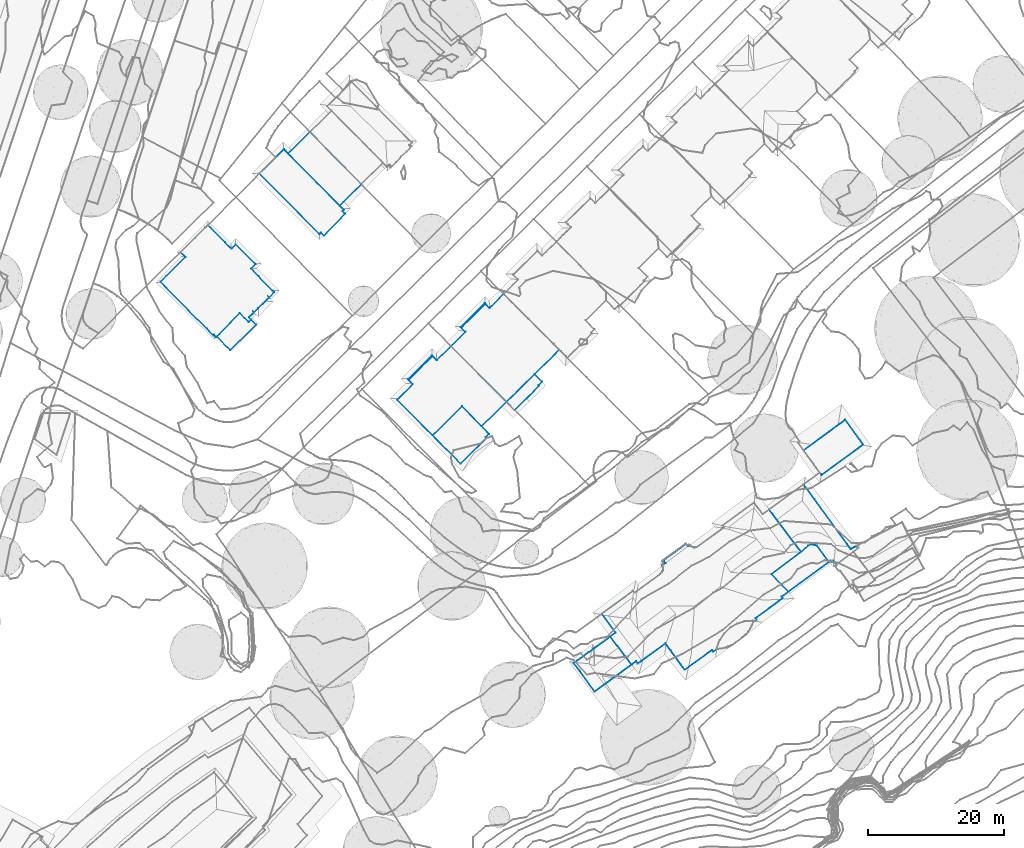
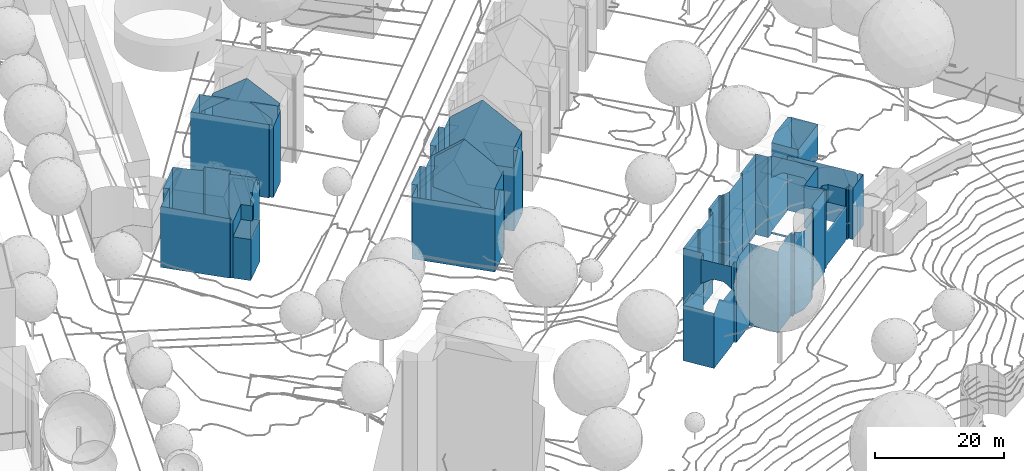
# Not in any storey, part 21 of 494: 6 walls.
"""IFC2X3 model written with IfcOpenShell, lengths in metres."""

from ifc_helpers import new_model, si_unit, frame, origin_with_axes, place, context, subcontext, project, faceted_brep, element, save


model = new_model("IFC2X3")

# Units and contexts
model_context = context("Model", 3, precision=1e-05, world=origin_with_axes())
body_context = subcontext(model_context, "Body", "Model", "MODEL_VIEW")
ifc_project = project(units=[si_unit("AREAUNIT", "SQUARE_METRE"), si_unit("LENGTHUNIT", "METRE")], contexts=[model_context])

# Walls
wall_1_placement = place(None, frame((173.5807320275, 98.186316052, 528.0961), z_axis=(0.0, 0.0, 1.0), x_axis=(1.0, 0.0, 0.0)))
element("IfcWall", 1, at=wall_1_placement, Name="Wall 0", context=body_context, shape_type="Brep", body=[
    faceted_brep([(1.1739999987, 0.8575000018, 7.6082), (2.6099999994, 1.9063000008, 0.0), (1.0150000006, 0.7412, 0.0), (3.1510000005, 2.3018000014, 2.9247), (3.0130000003, 2.2001999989, 7.5642), (4.1730000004, 3.0489000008, 7.5362), (0.0, 0.0, 0.0), (0.0, 0.0, 6.6523), (2.5949999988, -3.5537, -0.0001), (1.2459999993, -1.7060000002, 6.6293), (2.5920000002, -3.5507000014, 6.6043), (2.6530000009, -3.6347000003, 6.5363), (2.6530000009, -3.6347000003, -0.0001), (8.8049999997, 0.8584000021, -0.0001), (8.693, 0.7763999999, 6.6173), (6.7740000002, -0.625, 6.5913), (5.748999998, -1.373999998, -0.0001), (4.8889999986, 3.5703000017, 0.0), (6.1530000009, 4.4932000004, 0.0), (6.1530000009, 4.4932000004, 6.6003), (8.1009999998, 1.8233000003, 6.5443), (5.0500000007, 3.688500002, 7.5162), (8.8049999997, 0.8584000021, 6.5233)], [[[0, 1, 2]], [[1, 0, 3]], [[4, 5, 3]], [[6, 7, 0]], [[2, 6, 0]], [[8, 9, 6]], [[8, 10, 9]], [[8, 11, 10]], [[11, 8, 12]], [[13, 14, 15]], [[16, 13, 15]], [[15, 11, 16]], [[16, 11, 12]], [[1, 5, 17]], [[18, 19, 20]], [[21, 19, 17]], [[4, 3, 0]], [[5, 1, 3]], [[7, 6, 9]], [[17, 5, 21]], [[13, 22, 14]], [[20, 13, 18]], [[22, 13, 20]], [[19, 18, 17]]]),
])
wall_2_placement = place(None, frame((160.7467320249, 68.8533160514, 524.6524), z_axis=(0.0, 0.0, 1.0), x_axis=(1.0, 0.0, 0.0)))
element("IfcWall", 2, at=wall_2_placement, Name="Wall 1", context=body_context, shape_type="Brep", body=[
    faceted_brep([(9.7750000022, 7.5351999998, 15.4145), (9.7750000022, 7.5351999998, 10.225), (9.6160000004, 7.7530000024, 15.3945), (4.3800000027, 2.1933999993, -0.068), (4.3800000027, 2.1933999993, 14.7285), (2.1630000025, 0.5274000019, -0.068), (4.694000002, 2.6006000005, 14.8385), (4.694000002, 2.6006000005, -0.068), (5.2080000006, 3.4942000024, 15.1685), (4.9700000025, 3.0362000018, 14.9875), (5.2080000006, 3.4942000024, -0.068), (4.9700000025, 3.0362000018, -0.068), (5.4050000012, 3.9717000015, -0.068), (5.9300000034, 4.3544999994, 15.3735), (5.9300000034, 4.3544999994, -0.068), (5.7530000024, 4.5976999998, -0.068), (-7.5319999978, 0.8632999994, 7.7602), (-7.4729999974, 0.7959000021, -0.068), (-7.4729999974, 0.7959000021, 15.4845), (-7.5319999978, 0.8632999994, -0.068), (-6.0219999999, -1.1981999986, -0.068), (-5.9399999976, -1.3104999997, 15.3805), (-6.7879999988, -0.1464999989, 3.9136), (-4.6849999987, -3.0381000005, 15.2955), (-4.6849999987, -3.0381000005, 11.4069), (-4.6849999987, -3.0381000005, 7.5192), (-4.6849999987, -3.0381000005, -0.068), (-6.7759999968, -0.1631000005, 15.4375), (-0.6710000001, -0.1053999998, 7.8182), (-0.4979999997, -0.3418000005, 15.4665), (-0.6710000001, -0.1053999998, 15.7045), (-0.6710000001, -0.1053999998, -0.068), (-0.4979999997, -0.3418000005, -0.068), (0.0340000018, 0.0234999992, -0.068), (0.0340000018, 0.0234999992, 15.4435), (0.5250000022, 0.067400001, -0.068), (0.5250000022, 0.067400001, 15.2315), (1.0109999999, 0.1504000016, -0.068), (1.0109999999, 0.1504000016, 15.0475), (1.4630000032, 0.2675999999, 14.9025), (1.4650000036, 0.2675999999, -0.068), (1.4870000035, 0.2754000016, -0.068), (1.4870000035, 0.2754000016, 11.1539), (1.7210000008, 0.3555000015, 3.6096), (1.7210000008, 0.3555000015, 11.0919), (1.5950000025, 0.3125, 3.9526), (1.8370000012, 0.3955000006, 3.5786), (1.9539999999, 0.4356000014, 14.7715), (1.8370000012, 0.3955000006, 14.8015), (1.9539999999, 0.4356000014, -0.068), (1.6480000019, 0.3300999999, 14.8525), (2.1630000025, 0.5274000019, 14.7285), (0.9130000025, 18.2558999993, -0.068), (0.9130000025, 18.2558999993, 15.1985), (5.5450000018, 21.6367000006, -0.068), (5.5450000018, 21.6367000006, 15.2335), (5.5450000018, 21.6367000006, 3.7576), (8.1400000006, 11.0918000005, 14.6826), (10.5880000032, 8.4688000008, 14.6826), (8.1400000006, 11.0918000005, 6.6703), (8.1400000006, 11.0918000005, 0.1969), (10.5880000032, 8.4688000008, 0.1969), (8.1400000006, 11.0918000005, -0.068), (12.4710000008, 14.3535000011, 10.016), (12.4710000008, 14.3535000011, 14.6826), (12.4710000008, 14.3535000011, 6.6703), (12.4710000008, 14.3535000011, 0.1969), (12.4710000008, 14.3535000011, -0.068), (-16.9019999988, 5.2382999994, -0.068), (-16.9019999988, 5.2382999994, 7.5053), (-12.2789999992, 8.6132999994, -0.068), (-14.5899999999, 6.9268000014, 15.1365), (-12.2789999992, 8.6132999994, 15.1555), (-11.8499999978, -1.7705000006, 15.1135), (-11.8499999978, -1.7705000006, 11.3179), (-11.6019999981, -2.1092999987, 7.5203), (-11.8499999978, -1.7705000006, 7.5223), (-11.6019999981, -2.1094000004, -0.068), (-11.8499999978, -1.7705000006, 3.7276), (-11.8499999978, -1.7705000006, -0.068), (-2.9339999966, 15.0850000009, 15.0645), (-2.9339999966, 15.0850000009, -0.068), (-3.0629999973, 15.0371000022, -0.068), (-3.1989999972, 15.0127000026, -0.068), (-3.1989999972, 15.0127000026, 15.0195), (-3.0629999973, 15.0372000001, 15.0475), (-3.3369999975, 15.0117000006, 14.9835), (-3.3369999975, 15.0117000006, -0.068), (-3.4719999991, 15.0342000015, -0.068), (-3.4719999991, 15.0342000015, 14.9396), (-3.6639999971, 15.1104000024, -0.068), (-3.6639999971, 15.1104000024, 14.8616), (-3.8299999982, 15.2324000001, -0.068), (-3.8299999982, 15.2324000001, 14.7736), (-3.8699999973, 15.2030999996, -0.068), (-3.8699999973, 15.2030999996, 14.7736), (-3.9909999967, 15.3682000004, 14.6826), (-3.9909999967, 15.3682000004, -0.068), (-4.2079999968, 15.2050999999, 14.6826), (-4.2079999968, 15.2050999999, -0.068), (-7.9919999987, 12.3535000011, 14.6826), (-7.5029999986, 12.7217000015, -0.068), (-7.9919999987, 12.3535000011, -0.068), (-7.5029999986, 12.7217000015, 14.6826), (-7.9149999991, 12.2481000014, -0.068), (-7.9549999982, 12.2197999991, -0.068), (-7.9549999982, 12.2197999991, 14.7406), (-7.9149999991, 12.2481000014, 14.7406), (-7.8889999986, 12.0234999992, 14.8276), (-7.8889999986, 12.0234999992, -0.068), (-7.875, 11.8164000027, -0.068), (-7.875, 11.8164000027, 14.9046), (-7.8959999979, 11.6797000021, -0.068), (-7.8959999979, 11.6797000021, 14.9476), (-7.9389999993, 11.5488000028, -0.068), (-7.9389999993, 11.5489000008, 14.9825), (-8.0029999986, 11.4268000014, 15.0085), (-8.0029999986, 11.4268000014, -0.068), (-8.0879999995, 11.3175000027, -0.068), (-8.0878999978, 11.317400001, 15.0245), (-8.0589999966, 11.2774000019, 7.4893), (-8.0589999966, 11.2774000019, -0.068), (-2.9029999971, 15.0430000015, 15.0875), (-2.9029999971, 15.0430000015, -0.068), (-4.4869999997, 15.5419999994, 14.6826), (-4.2929999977, 15.2754000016, 14.6826), (-4.4869999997, 15.5419999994, -0.068), (-7.8029999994, 13.1220999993, 14.6826), (-4.2719999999, 15.2910000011, 14.6826), (-4.2719999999, 15.2910000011, -0.068), (-4.2929999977, 15.2754000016, -0.068), (-12.5299999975, -2.2675999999, 14.6826), (-13.3329999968, -1.2010999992, 11.4629), (-12.5309999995, -2.2675999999, 10.464), (-14.443, 0.2725000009, 11.4629), (-15.6519999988, 1.8780000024, 14.6826), (-15.6519999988, 1.8780000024, 10.061), (16.9630000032, 12.8438000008, 0.3329), (16.813000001, 13.0498000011, 5.5834), (16.813000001, 13.0498000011, 2.8137), (16.9630000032, 12.8438000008, 10.255), (16.813000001, 13.0498000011, 0.3329), (20.9470000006, 14.9453000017, 10.016), (17.6490000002, 12.4600000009, 10.016), (20.9470000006, 14.9453000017, 0.3329), (20.7070000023, 15.2646999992, 10.016), (20.7070000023, 15.2646999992, 0.3329), (7.762000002, 20.6064999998, 14.6826), (8.9000000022, 19.0967000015, 11.9998), (7.762000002, 20.6064999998, 10.539), (10.9910000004, 16.3252000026, 11.9998), (7.762000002, 20.6064999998, 0.3329), (8.9000000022, 19.0967000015, 0.3329), (7.762000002, 20.6064999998, -0.068), (10.9910000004, 16.3252000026, 0.3329), (12.4710000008, 14.3535000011, 0.3329), (14.825000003, 15.2588, 0.3329), (16.5910000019, 12.8867000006, 0.3329), (14.825000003, 15.2588, 0.1969), (13.8940000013, 15.4824000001, 0.3329), (13.8940000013, 15.4824000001, 0.1969), (13.4810000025, 15.2655999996, 0.3329), (13.4810000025, 15.2655999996, 0.1969), (16.5920000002, 12.8867000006, 10.016), (14.825000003, 15.2588, 10.016), (16.5910000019, 12.8867000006, 6.6703), (13.8940000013, 15.4824000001, 10.016), (13.4810000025, 15.2655999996, 10.016), (13.8940000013, 15.4824000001, 6.6703), (13.4810000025, 15.2655999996, 6.6703), (14.825000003, 15.2588, 6.6703), (6.8060000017, 19.9081999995, 15.2605), (6.8060000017, 19.9081999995, -0.068), (12.8330000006, 24.3115000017, 10.609), (12.8330000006, 24.3115000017, 0.3329), (5.5620000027, 21.6132999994, 15.2455), (9.5900000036, 7.4004000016, 15.5495), (9.7750000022, 7.5351999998, -0.068), (6.7770000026, 5.3456999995, 15.6015), (5.7530000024, 4.5976999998, 15.6175), (-1.8509999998, -0.9677000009, 15.7215), (-1.8509999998, -0.9677000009, -0.068), (-4.1559999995, -2.6512999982, 15.7465), (-4.1559999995, -2.6512999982, -0.068), (0.9550000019, 18.1983000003, 15.2275), (1.1150000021, 17.9785000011, 15.2265), (1.1150000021, 17.9785000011, -0.068), (-12.0789999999, 8.3399000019, 15.2075), (-12.0789999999, 8.3399000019, -0.068), (-11.7219999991, 8.6006000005, 15.0175), (-8.0589999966, 11.2774000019, 15.0465), (-12.2149999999, 8.5254000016, 15.2055), (-14.867999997, 2.4521999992, 15.1795), (-16.9019999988, 5.2382999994, 15.1165), (-14.867999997, 2.4521999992, -0.068), (-16.7889999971, 5.0830000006, 15.2045), (-11.0119999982, -1.6787, 15.4845), (-11.6019999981, -2.1094000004, 15.1105), (-10.9069999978, -1.6024999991, 15.6605), (-7.5319999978, 0.8632999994, 15.5895), (-10.9069999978, -1.6024999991, -0.068), (-11.0119999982, -1.6787, -0.068), (0.9360000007, 17.8476999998, -0.068), (0.9360000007, 17.8476999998, 15.1185), (-7.8029999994, 13.1220999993, -0.068), (-4.5849999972, 15.4717000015, -0.068), (-4.5849999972, 15.4717000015, 14.6826), (-17.9599999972, -6.2333999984, -0.22), (-17.9599999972, -6.2333999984, 10.231), (-20.1969999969, -3.182599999, -0.22), (-20.1969999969, -3.182599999, 10.271), (-21.0489999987, -2.0194999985, 10.226), (-21.0489999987, -2.0194999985, -0.22), (-18.8389999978, -0.4569999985, -0.22), (-20.925999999, -1.932599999, 10.324), (-18.8389999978, -0.4569999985, 10.382), (-15.1559999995, -4.1854999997, 10.5), (-16.2929999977, -5.0155999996, 11.5049), (-17.2149999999, -5.6893999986, -0.22), (-17.2149999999, -5.6893999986, 10.9909), (-16.5599999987, -5.2108999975, 11.5199), (-16.4949999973, -5.1631000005, -0.22), (-12.5299999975, -2.2675999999, -0.068), (-15.1559999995, -4.1854999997, -0.22), (-12.5309999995, -2.2675999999, -0.22), (-15.6519999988, 1.8780000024, -0.068), (-15.6519999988, 1.8780000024, -0.22), (16.813000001, 13.0498000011, 10.258), (10.5880000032, 8.4688000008, 6.6703), (9.6160000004, 7.7530000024, -0.068), (16.5910000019, 12.8867000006, 0.1969), (10.5880000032, 8.4688000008, -0.068), (17.2290000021, 13.0381000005, 10.5479), (17.2290000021, 13.0381000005, 0.3329), (17.6490000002, 12.4600000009, 0.3329), (17.2780000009, 12.9706999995, 0.3329), (17.2780000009, 12.9706999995, 10.5469), (20.4240000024, 15.1162, 10.271), (19.7880000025, 14.7842000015, 10.496), (20.2520000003, 15.0263999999, 10.423), (19.7880000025, 14.7842000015, 0.3329), (20.2410000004, 15.0205000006, 0.3329), (-17.981999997, 0.1709000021, 10.034), (-18.2019999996, 0.009800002, -0.22), (-18.432, -0.1581999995, -0.22), (-17.981999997, 0.1709000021, -0.22), (-18.432, -0.1581999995, 10.387), (-18.2019999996, 0.009800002, 10.274), (12.9020000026, 24.2178000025, 10.699), (14.4370000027, 22.1143000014, 10.7349), (14.4370000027, 22.1143000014, 0.3329), (12.9020000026, 24.2178000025, 0.3329), (19.2700000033, 15.4932000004, 10.8329), (19.2700000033, 15.4932000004, 0.3329), (19.5520000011, 15.1084000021, 0.3329), (19.5520000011, 15.1084000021, 10.8339), (5.4050000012, 3.9717000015, 15.3815)], [[[0, 1, 2]], [[3, 4, 5]], [[6, 4, 7]], [[8, 9, 10]], [[9, 11, 10]], [[8, 10, 12]], [[13, 14, 15]], [[16, 17, 18]], [[16, 19, 17]], [[20, 21, 22]], [[23, 21, 24]], [[25, 20, 26]], [[27, 17, 22]], [[20, 22, 17]], [[28, 29, 30]], [[28, 31, 29]], [[29, 31, 32]], [[32, 33, 34]], [[29, 32, 34]], [[35, 36, 33]], [[35, 37, 38]], [[38, 37, 39]], [[39, 37, 40]], [[41, 42, 39]], [[41, 39, 40]], [[43, 44, 45]], [[46, 47, 48]], [[48, 44, 46]], [[47, 46, 49]], [[49, 46, 43]], [[50, 45, 44]], [[42, 50, 39]], [[43, 45, 41]], [[43, 41, 49]], [[51, 47, 5]], [[5, 47, 49]], [[52, 53, 54]], [[55, 56, 53]], [[56, 54, 53]], [[57, 58, 59]], [[60, 61, 62]], [[63, 64, 57]], [[63, 59, 65]], [[59, 63, 57]], [[66, 60, 67]], [[68, 69, 70]], [[71, 72, 69]], [[70, 69, 72]], [[73, 74, 75]], [[74, 76, 77]], [[78, 77, 76]], [[78, 79, 77]], [[80, 81, 82]], [[82, 83, 84]], [[85, 82, 84]], [[86, 83, 87]], [[88, 89, 87]], [[90, 91, 89]], [[90, 89, 88]], [[91, 92, 93]], [[91, 90, 92]], [[94, 95, 92]], [[95, 93, 92]], [[94, 96, 95]], [[96, 94, 97]], [[98, 96, 99]], [[96, 97, 99]], [[100, 101, 102]], [[101, 100, 103]], [[104, 100, 102]], [[105, 106, 104]], [[104, 106, 107]], [[105, 108, 106]], [[108, 105, 109]], [[110, 111, 108]], [[110, 108, 109]], [[112, 113, 110]], [[114, 115, 113]], [[113, 112, 114]], [[115, 114, 116]], [[116, 114, 117]], [[116, 118, 119]], [[116, 117, 118]], [[119, 118, 120]], [[120, 118, 121]], [[81, 80, 122]], [[123, 81, 122]], [[124, 125, 126]], [[103, 127, 101]], [[128, 98, 129]], [[125, 128, 130]], [[131, 132, 133]], [[132, 131, 134]], [[134, 135, 136]], [[135, 134, 131]], [[137, 138, 139]], [[140, 138, 137]], [[137, 139, 141]], [[142, 143, 144]], [[145, 142, 146]], [[147, 148, 149]], [[148, 147, 150]], [[150, 64, 63]], [[64, 150, 147]], [[151, 152, 153]], [[153, 152, 154]], [[154, 155, 66]], [[66, 67, 154]], [[154, 67, 153]], [[156, 157, 158]], [[159, 156, 160]], [[161, 159, 162]], [[155, 161, 66]], [[163, 164, 165]], [[166, 167, 168]], [[167, 63, 169]], [[164, 166, 170]], [[171, 147, 149]], [[149, 172, 171]], [[172, 149, 151]], [[173, 174, 151]], [[151, 153, 172]], [[173, 151, 149]], [[54, 56, 172]], [[175, 171, 55]], [[171, 172, 56]], [[171, 56, 55]], [[1, 0, 176]], [[15, 177, 1]], [[178, 1, 176]], [[178, 179, 15]], [[178, 15, 1]], [[180, 28, 30]], [[181, 28, 25]], [[31, 28, 181]], [[24, 180, 182]], [[24, 182, 23]], [[26, 183, 25]], [[183, 181, 25]], [[180, 24, 25]], [[25, 28, 180]], [[184, 53, 185]], [[52, 186, 53]], [[53, 186, 185]], [[187, 120, 188]], [[189, 120, 187]], [[189, 190, 120]], [[188, 120, 121]], [[188, 70, 72]], [[187, 188, 72]], [[191, 187, 72]], [[192, 193, 194]], [[193, 192, 195]], [[68, 194, 69]], [[69, 194, 193]], [[196, 197, 16]], [[198, 196, 16]], [[16, 199, 198]], [[16, 197, 75]], [[16, 75, 19]], [[200, 19, 75]], [[201, 200, 75]], [[75, 77, 201]], [[123, 122, 202]], [[202, 203, 186]], [[202, 122, 203]], [[186, 203, 185]], [[204, 127, 205]], [[124, 126, 206]], [[207, 208, 209]], [[209, 208, 210]], [[209, 211, 212]], [[211, 209, 210]], [[213, 212, 211]], [[211, 214, 215]], [[211, 215, 213]], [[216, 217, 208]], [[74, 133, 76]], [[74, 131, 133]], [[78, 76, 218]], [[133, 207, 76]], [[133, 216, 207]], [[73, 131, 74]], [[219, 217, 220]], [[208, 207, 216]], [[221, 78, 218]], [[218, 76, 207]], [[79, 78, 222]], [[223, 224, 222]], [[222, 78, 223]], [[221, 223, 78]], [[208, 217, 219]], [[225, 224, 226]], [[224, 225, 222]], [[227, 163, 138]], [[228, 58, 2]], [[165, 138, 163]], [[61, 139, 138]], [[61, 138, 165]], [[165, 228, 61]], [[228, 229, 61]], [[141, 139, 157]], [[61, 230, 157]], [[139, 61, 157]], [[231, 61, 229]], [[2, 229, 228]], [[140, 137, 232]], [[137, 233, 232]], [[234, 143, 235]], [[235, 143, 236]], [[236, 232, 233]], [[236, 233, 235]], [[237, 145, 238]], [[238, 239, 237]], [[145, 240, 238]], [[241, 240, 145]], [[241, 145, 146]], [[242, 243, 244]], [[242, 245, 243]], [[226, 245, 225]], [[194, 225, 136]], [[225, 245, 242]], [[244, 213, 215]], [[136, 135, 192]], [[246, 247, 242]], [[242, 136, 225]], [[246, 242, 215]], [[192, 194, 136]], [[215, 242, 244]], [[173, 248, 249]], [[249, 250, 173]], [[173, 251, 174]], [[250, 251, 173]], [[249, 252, 253]], [[238, 253, 252]], [[249, 253, 250]], [[240, 254, 238]], [[238, 254, 253]], [[252, 255, 238]], [[2, 1, 177]], [[229, 2, 177]], [[51, 5, 4]], [[4, 3, 7]], [[6, 7, 9]], [[11, 9, 7]], [[256, 8, 12]], [[14, 13, 12]], [[256, 12, 13]], [[15, 179, 13]], [[199, 16, 18]], [[24, 21, 20]], [[24, 20, 25]], [[27, 22, 21]], [[18, 17, 27]], [[34, 33, 36]], [[36, 35, 38]], [[46, 44, 43]], [[50, 44, 48]], [[45, 50, 42]], [[42, 41, 45]], [[58, 228, 59]], [[61, 231, 62]], [[60, 62, 67]], [[193, 71, 69]], [[75, 74, 77]], [[73, 75, 197]], [[85, 80, 82]], [[84, 83, 86]], [[86, 87, 89]], [[107, 100, 104]], [[111, 110, 113]], [[190, 119, 120]], [[125, 130, 126]], [[127, 204, 101]], [[98, 99, 129]], [[128, 129, 130]], [[227, 138, 140]], [[143, 234, 144]], [[142, 144, 146]], [[157, 230, 158]], [[156, 158, 160]], [[159, 160, 162]], [[161, 162, 66]], [[164, 170, 165]], [[167, 169, 168]], [[63, 65, 169]], [[166, 168, 170]], [[127, 206, 205]], [[126, 205, 206]]]),
])
wall_3_placement = place(None, frame((78.7667320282, 123.0301160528, 529.3211), z_axis=(0.0, 0.0, 1.0), x_axis=(1.0, 0.0, 0.0)))
element("IfcWall", 3, at=wall_3_placement, Name="Wall 0", context=body_context, shape_type="Brep", body=[
    faceted_brep([(14.1019999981, -6.3213, 7.7942), (10.2869999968, -10.1006000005, 7.7942), (14.1019999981, -6.3213, -0.0001), (8.2649999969, -8.126000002, 7.7942), (10.2869999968, -10.1006000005, -0.0001), (15.7159999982, -2.0342000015, 12.0338), (16.0089999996, -2.3194000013, 12.0338), (16.0089999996, -2.3194000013, 11.3049), (13.7709999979, -4.5351999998, 12.0338), (13.5189999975, -4.2890999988, 12.0338), (13.7709999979, -4.5351999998, 11.4069), (0.0, 0.0, 0.0), (3.7009999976, 3.6631000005, 11.4989), (3.7009999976, 3.6631000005, 0.0), (0.0, 0.0, 11.3499), (0.0, 0.0, 7.0373), (8.2419999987, -8.1493999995, 10.6389), (7.930999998, -7.8350000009, 11.4119), (8.2419999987, -8.1493999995, -0.0001), (7.930999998, -7.8350000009, -0.0001), (7.8399999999, -7.9257999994, -0.0001), (7.8399999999, -7.9257999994, 11.2049), (11.6569999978, -4.6464999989, 7.7942), (11.6569999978, -4.6464999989, 10.6389), (8.2649999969, -8.126000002, -0.0001), (13.3609999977, -5.572300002, 10.6389), (12.993999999, -5.9492000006, 10.6389), (13.3609999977, -5.572300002, 7.7942), (12.993999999, -5.9492000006, 7.7942), (6.8609999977, -6.9365000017, 11.2509), (6.8609999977, -6.9365000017, -0.0001), (0.0819999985, -0.0830000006, 11.5359), (13.9399999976, 2.6543000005, 11.8498), (14.0039999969, 2.5907999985, 11.6778), (11.1199999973, 5.5058000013, 11.7208), (14.0039999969, 2.5907999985, 5.8224), (14.0039999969, 2.5907999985, 0.0), (13.9399999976, 2.6543000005, 0.0), (11.1199999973, 5.5058000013, 0.0), (10.4769999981, 4.8680999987, 11.8988), (10.6209999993, 5.0106999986, 11.9048), (10.6209999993, 5.0106999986, 0.0), (10.4769999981, 4.8680999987, 0.0), (11.0399999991, 5.4266999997, 11.9258), (2.981999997, 4.3896000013, 0.0), (2.981999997, 4.3896000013, 11.2519), (6.5949999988, 7.9648000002, 0.0), (6.5949999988, 7.9648000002, 11.3959), (7.0089999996, 8.375, 11.4129), (7.0089999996, 8.375, 0.0), (9.5, 5.8563999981, 0.0), (7.0219999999, 8.3612999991, 0.0), (9.5, 5.8563999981, 11.5559), (10.367999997, 4.9785000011, 11.5978), (7.0219999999, 8.3612999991, 11.4419), (3.0069999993, 4.3641999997, 11.3079), (3.6059999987, 3.7588, 11.2829), (13.3699999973, 1.9628999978, 0.0), (13.3699999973, 1.9628999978, 11.7108), (14.4459999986, 0.8535000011, 11.7918), (16.5169999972, -1.2813000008, -0.0001), (16.5169999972, -1.2813000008, 11.9448), (16.7819999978, -1.5547000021, -0.0001), (16.7819999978, -1.5547000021, 11.2699), (14.4459999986, 0.8535000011, -0.0001), (13.0449999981, -5.2529000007, 11.4368), (13.0449999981, -5.2529000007, -0.0001), (13.3609999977, -5.572300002, -0.0001), (16.7109999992, -1.625, 11.2739), (16.0089999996, -2.3194000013, -0.0001), (15.4229999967, -2.9004000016, 13.0077), (15.1199999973, -3.1992000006, -0.0001), (15.1199999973, -3.1992000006, 13.0157), (16.7109999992, -1.625, -0.0001), (15.4229999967, -2.9004000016, -0.0001), (14.436999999, -3.875, -0.0001), (14.436999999, -3.875, 13.0357), (13.2909999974, -5.009800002, -0.0001), (13.5549999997, -4.7481000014, 11.4159), (13.2909999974, -5.009800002, 11.4288), (13.7709999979, -4.5351999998, -0.0001), (13.5549999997, -4.7481000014, -0.0001)], [[[0, 1, 2]], [[1, 3, 4]], [[5, 6, 7]], [[8, 9, 10]], [[11, 12, 13]], [[14, 12, 15]], [[11, 15, 12]], [[16, 17, 18]], [[17, 19, 18]], [[20, 19, 21]], [[22, 23, 3]], [[3, 18, 24]], [[18, 3, 16]], [[25, 26, 27]], [[26, 23, 28]], [[29, 30, 20]], [[21, 29, 20]], [[15, 29, 31]], [[15, 31, 14]], [[11, 30, 15]], [[15, 30, 29]], [[32, 33, 34]], [[34, 33, 35]], [[35, 36, 37]], [[37, 38, 35]], [[35, 38, 34]], [[39, 40, 41]], [[41, 42, 39]], [[40, 38, 41]], [[34, 38, 40]], [[34, 40, 43]], [[44, 45, 46]], [[46, 45, 47]], [[47, 48, 49]], [[47, 49, 46]], [[50, 51, 52]], [[53, 42, 50]], [[52, 51, 49]], [[48, 54, 52]], [[53, 39, 42]], [[53, 50, 52]], [[52, 49, 48]], [[55, 45, 56]], [[12, 56, 13]], [[13, 56, 45]], [[44, 13, 45]], [[57, 58, 59]], [[60, 59, 61]], [[62, 61, 63]], [[60, 64, 59]], [[62, 60, 61]], [[59, 64, 57]], [[25, 27, 65]], [[65, 27, 66]], [[2, 67, 27]], [[27, 67, 66]], [[0, 2, 27]], [[68, 7, 69]], [[7, 70, 71]], [[70, 7, 6]], [[71, 70, 72]], [[62, 63, 73]], [[63, 68, 73]], [[69, 73, 68]], [[7, 74, 69]], [[7, 71, 74]], [[72, 75, 71]], [[10, 76, 8]], [[77, 78, 79]], [[66, 79, 65]], [[75, 10, 80]], [[10, 75, 76]], [[80, 10, 81]], [[81, 10, 78]], [[81, 78, 77]], [[79, 66, 77]], [[76, 75, 72]], [[1, 4, 2]], [[3, 24, 4]], [[21, 19, 17]], [[35, 33, 57]], [[57, 36, 35]], [[58, 57, 33]], [[23, 16, 3]], [[26, 28, 27]], [[23, 22, 28]]]),
])
wall_4_placement = place(None, frame((93.366732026, 139.0154160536, 529.92), z_axis=(0.0, 0.0, 1.0), x_axis=(1.0, 0.0, 0.0)))
element("IfcWall", 4, at=wall_4_placement, Name="Wall 0", context=body_context, shape_type="Brep", body=[
    faceted_brep([(9.506000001, -9.1621000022, 13.4417), (9.0810000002, -8.7324000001, 0.0), (9.506000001, -9.1621000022, 0.0), (12.6420000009, -5.9756000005, 13.4417), (12.6420000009, -5.9756000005, 0.0), (9.0810000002, -8.7324000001, 13.8067), (8.8610000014, -8.951100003, 3.4527), (8.8610000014, -8.951100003, 0.0), (7.4539999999, 6.1162, 4.2446), (4.25, 2.9423999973, 0.104), (7.4539999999, 6.1162, 8.3852), (7.4539999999, 6.1162, 0.104), (12.4629999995, -5.3828000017, 0.104), (12.4629999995, -5.3828000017, 6.8843), (12.2569999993, -5.5868999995, 0.0), (12.4629999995, -5.3828000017, 0.0), (12.2569999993, -5.5868999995, 13.7727), (3.8320000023, 3.3310999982, 10.698), (3.8489999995, 3.3486999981, 0.104), (3.8320000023, 3.3310999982, 0.104), (0.0, 0.0, 13.9177), (3.5109999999, 3.4775999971, 13.9557), (3.6000000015, 3.5654999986, 13.8767), (3.6000000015, 3.5654999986, 0.0), (3.5109999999, 3.4775999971, 0.0), (0.0, 0.0, 0.0), (8.8610000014, -8.951100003, 13.8097), (8.800999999, -8.8905999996, 13.8607), (8.8610000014, -8.951100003, 10.357), (0.0580000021, -0.0576000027, 0.0), (0.0580000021, -0.0576000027, 13.9677), (15.0190000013, -1.5849000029, 0.104), (15.0190000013, -1.5849000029, 11.2879), (12.2919999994, -4.2861000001, 11.3269), (11.8300000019, -4.7441000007, 11.3319), (11.8300000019, -4.7441000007, 0.104), (11.307, 2.1943999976, 0.104), (7.4539999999, 6.1162, 11.1449), (11.307, 2.1943999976, 15.0576), (7.0130000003, 0.1191999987, 13.9157), (12.2200000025, -5.1377000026, 0.0), (11.8300000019, -4.7441000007, 13.9707), (12.4629999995, -5.3828000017, 13.7707), (9.2470000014, -2.1367000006, 13.9417), (12.2250000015, -5.1416000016, 13.9757), (3.8489999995, 3.3486999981, 10.698), (4.25, 2.9423999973, 11.1039)], [[[0, 1, 2]], [[3, 0, 4]], [[1, 5, 6]], [[6, 7, 1]], [[8, 9, 10]], [[11, 9, 8]], [[12, 13, 14]], [[12, 14, 15]], [[16, 14, 13]], [[17, 18, 19]], [[20, 21, 22]], [[20, 22, 23]], [[20, 24, 25]], [[24, 20, 23]], [[26, 27, 28]], [[6, 28, 29]], [[30, 28, 27]], [[29, 30, 20]], [[29, 20, 25]], [[7, 6, 29]], [[28, 30, 29]], [[31, 32, 33]], [[33, 34, 35]], [[33, 35, 31]], [[36, 11, 8]], [[8, 32, 36]], [[37, 38, 10]], [[32, 31, 36]], [[32, 10, 38]], [[32, 8, 10]], [[22, 17, 23]], [[17, 22, 39]], [[23, 19, 40]], [[19, 23, 17]], [[35, 40, 19]], [[34, 41, 42]], [[41, 34, 43]], [[44, 42, 41]], [[40, 12, 15]], [[40, 35, 12]], [[35, 13, 12]], [[34, 42, 13]], [[35, 34, 13]], [[5, 1, 0]], [[0, 2, 4]], [[16, 3, 14]], [[14, 3, 4]], [[5, 28, 6]], [[26, 28, 5]], [[45, 46, 9]], [[45, 9, 18]], [[37, 9, 46]], [[9, 37, 10]], [[16, 13, 42]], [[45, 18, 17]]]),
])
wall_5_placement = place(None, frame((121.6327320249, 113.5477160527, 529.229), z_axis=(0.0, 0.0, 1.0), x_axis=(1.0, 0.0, 0.0)))
element("IfcWall", 5, at=wall_5_placement, Name="Wall 0", context=body_context, shape_type="Brep", body=[
    faceted_brep([(15.943, -0.5274000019, 11.1639), (12.2860000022, -4.1367999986, 0.11), (15.943, -0.5274000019, 0.0), (8.1550000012, -8.2149000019, 0.11), (8.1550000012, -8.2149000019, 0.0), (1.5050000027, 2.7030999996, 0.581), (5.0610000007, 6.2137999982, 0.581), (1.5050000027, 2.7030999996, 0.0), (0.0, 0.0, 0.0), (0.0, 0.0, 5.9304), (1.2850000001, 1.2773000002, 4.0726), (2.1090000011, 2.0947000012, 0.0), (2.1090000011, 2.0947000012, 11.8529), (2.1090000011, 2.0947000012, 7.4053), (2.1090000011, 2.0947000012, 2.9577), (13.376000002, -5.2413000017, 11.1639), (12.8720000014, -5.7422000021, 0.11), (13.376000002, -5.2413000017, 0.11), (12.8720000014, -5.7422000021, 11.8219), (12.9780000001, -5.8487000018, 5.2335), (12.9780000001, -5.8487000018, 0.11), (12.2860000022, -4.1367999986, 11.1639), (7.745000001, 7.6904000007, 0.0), (7.745000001, 7.6904000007, 11.8359), (11.4760000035, 3.9510999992, 0.0), (11.4760000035, 3.9510999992, 16.0845), (1.9800000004, 2.2245999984, 11.7059), (1.4030000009, 2.8055999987, 11.7039), (1.4030000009, 2.8055999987, 0.581), (5.6550000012, 5.6162, 11.8729), (5.6770000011, 5.6376000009, 11.8419), (5.6550000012, 5.6162, 0.0), (1.5170000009, 2.9199000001, 0.581), (4.943, 6.3330000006, 11.8379), (4.943, 6.3330000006, 0.581), (1.5170000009, 2.9199000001, 11.8609), (5.0610000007, 6.2137999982, 0.0), (4.9690000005, 6.3066000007, 11.8759), (11.1170000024, -7.697300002, 0.11), (9.3650000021, -9.4365999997, 0.11), (12.9780000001, -5.8487000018, 11.8219), (11.1170000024, -7.697300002, 14.2506), (9.3650000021, -9.4365999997, 12.0388), (7.3680000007, -7.4239000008, 12.0318), (3.699000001, -3.7265999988, 0.0), (0.0, 0.0, 11.8609), (3.699000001, -3.7265999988, 16.0845)], [[[0, 1, 2]], [[1, 3, 4]], [[1, 4, 2]], [[5, 6, 7]], [[8, 9, 10]], [[8, 10, 11]], [[12, 13, 10]], [[14, 10, 13]], [[14, 11, 10]], [[15, 16, 17]], [[15, 18, 16]], [[19, 20, 16]], [[21, 17, 1]], [[22, 23, 24]], [[0, 23, 25]], [[0, 2, 24]], [[0, 24, 23]], [[26, 27, 13]], [[13, 12, 26]], [[27, 28, 13]], [[14, 28, 5]], [[28, 14, 13]], [[11, 5, 7]], [[5, 11, 14]], [[29, 30, 31]], [[23, 22, 31]], [[23, 31, 30]], [[32, 28, 33]], [[34, 32, 33]], [[27, 35, 33]], [[27, 33, 28]], [[36, 6, 31]], [[34, 33, 6]], [[33, 37, 29]], [[31, 6, 29]], [[29, 6, 33]], [[20, 19, 38]], [[39, 38, 19]], [[40, 41, 42]], [[19, 42, 39]], [[42, 19, 40]], [[3, 43, 9]], [[42, 43, 3]], [[3, 39, 42]], [[44, 4, 3]], [[45, 43, 46]], [[9, 44, 3]], [[44, 9, 8]], [[9, 43, 45]], [[21, 1, 0]], [[6, 36, 7]], [[9, 45, 10]], [[45, 12, 10]], [[18, 40, 16]], [[16, 40, 19]], [[15, 17, 21]]]),
])
wall_6_placement = place(None, frame((113.678732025, 105.6463160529, 529.229), z_axis=(0.0, 0.0, 1.0), x_axis=(1.0, 0.0, 0.0)))
element("IfcWall", 6, at=wall_6_placement, Name="Wall 0", context=body_context, shape_type="Brep", body=[
    faceted_brep([(16.1090000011, -0.313500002, 11.1639), (12.4560000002, -3.9199000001, 11.1639), (16.1090000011, -0.313500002, 0.0), (5.8420000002, 5.8037, 0.0), (7.9539999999, 7.9013999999, 8.8922), (7.9539999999, 7.9013999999, 5.8835), (5.8420000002, 5.8037, 11.8679), (7.9539999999, 7.9013999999, 11.8609), (5.8420000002, 5.8037, 7.2403), (7.9539999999, 7.9013999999, 0.0), (1.6720000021, 2.9160000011, 0.265), (5.2250000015, 6.4248000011, 0.0), (1.6720000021, 2.9160000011, 0.0), (13.064000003, -5.5507999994, 11.7049), (13.1690000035, -5.6563000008, -0.047), (13.064000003, -5.5507999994, -0.047), (12.4560000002, -3.9199000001, 0.0), (13.5700000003, -5.0478999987, -0.047), (9.5590000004, -0.9844000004, -0.047), (9.5590000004, -0.9844000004, 0.0), (13.5700000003, -5.0478999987, 11.1639), (5.2260000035, -5.2626999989, 0.0), (5.2250000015, -5.2637000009, -0.047), (5.0930000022, 6.4853000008, 11.8709), (5.1290000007, 6.5214999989, 11.8259), (1.7100000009, 3.120099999, 11.8879), (1.5890000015, 2.998999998, 11.7429), (5.1290000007, 6.5214999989, 0.265), (5.0930000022, 6.4853000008, 0.265), (1.7100000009, 3.120099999, 0.265), (1.5890000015, 2.998999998, 0.265), (11.6530000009, 4.1748000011, 16.0845), (11.6530000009, 4.1748000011, 0.0), (2.2990000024, 2.2841999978, 0.0), (0.0, 0.0, 0.0), (0.0, 0.0, 11.6839), (0.1780000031, 0.177699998, 11.8879), (2.2990000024, 2.2841999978, 11.8799), (5.2250000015, 6.4248000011, 0.265), (5.8020000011, 5.8436999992, 11.8229), (2.1810000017, 2.4032999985, 11.7449), (9.3660000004, -9.4345999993, 11.7119), (13.1690000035, -5.6563000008, 11.7049), (11.200000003, -7.6123000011, 13.8107), (9.3660000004, -9.4345999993, -0.047), (11.200000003, -7.6123000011, -0.047), (7.6390000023, -7.6933999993, 11.7079), (5.3280000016, -5.3672000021, -0.047), (5.3289999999, -5.3662, 11.7009)], [[[0, 1, 2]], [[3, 4, 5]], [[6, 7, 8]], [[4, 8, 7]], [[5, 9, 3]], [[10, 11, 12]], [[13, 14, 15]], [[16, 1, 17]], [[18, 19, 16]], [[16, 17, 18]], [[20, 17, 1]], [[21, 18, 22]], [[23, 24, 25]], [[26, 25, 24]], [[24, 27, 26]], [[27, 28, 26]], [[29, 30, 26]], [[28, 29, 26]], [[7, 31, 4]], [[0, 5, 4]], [[4, 31, 0]], [[0, 2, 32]], [[5, 32, 9]], [[32, 5, 0]], [[33, 34, 35]], [[35, 36, 37]], [[35, 37, 33]], [[27, 8, 38]], [[11, 38, 3]], [[3, 38, 8]], [[8, 24, 39]], [[8, 39, 6]], [[24, 8, 27]], [[40, 26, 30]], [[37, 40, 10]], [[30, 10, 40]], [[12, 33, 10]], [[10, 33, 37]], [[41, 14, 42]], [[42, 43, 41]], [[41, 44, 45]], [[45, 14, 41]], [[44, 46, 47]], [[44, 41, 46]], [[46, 48, 21]], [[35, 34, 21]], [[47, 21, 22]], [[47, 46, 21]], [[21, 48, 35]], [[1, 16, 2]], [[4, 3, 8]], [[38, 11, 10]], [[13, 15, 20]], [[17, 20, 15]], [[14, 13, 42]], [[19, 18, 21]]]),
])

save(model, "model.ifc")
